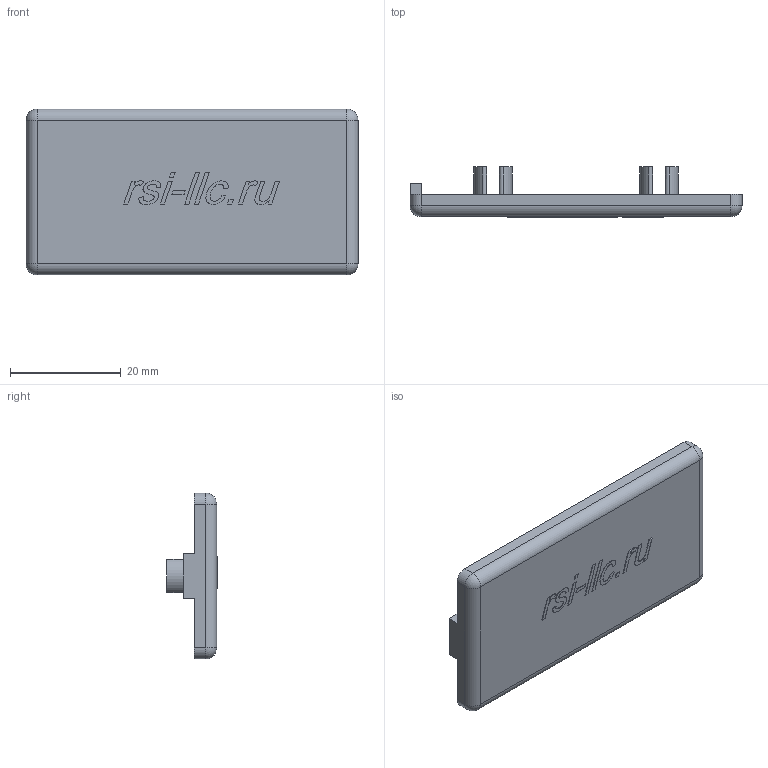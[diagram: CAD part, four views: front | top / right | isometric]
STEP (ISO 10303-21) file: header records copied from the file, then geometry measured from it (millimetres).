
FILE_DESCRIPTION (( 'STEP AP214' ), '1' );
FILE_NAME ('4008.STEP', '2020-10-20T09:52:57', ( '' ), ( '' ), 'SwSTEP 2.0', 'SolidWorks 2018', '' );
FILE_SCHEMA (( 'AUTOMOTIVE_DESIGN' ));
Length unit declared in the file: millimetre
Products named in the file (1): 4008
Bounding box: 60 x 9.1 x 30 mm (x, y, z)
Volume: 4367.7 mm3; surface area: 4893.4 mm2
Topology: 1 solids, 1 shells, 176 faces, 445 edges, 282 vertices
Faces by surface type: plane 80, cylinder 36, bspline 32, torus 24, sphere 4
Entity records: 8045 total; most frequent: CARTESIAN_POINT 2884, ORIENTED_EDGE 882, DIRECTION 787, EDGE_CURVE 441, VERTEX_POINT 282, AXIS2_PLACEMENT_3D 265, VECTOR 257, LINE 257
